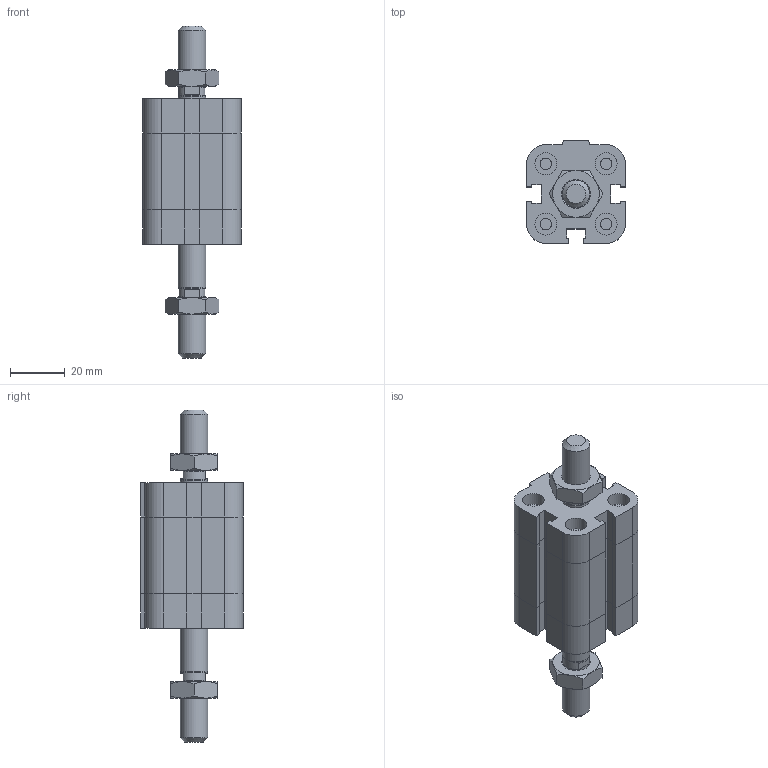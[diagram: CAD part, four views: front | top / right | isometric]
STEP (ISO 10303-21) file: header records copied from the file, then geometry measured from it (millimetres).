
FILE_DESCRIPTION((''),'2;1');
FILE_NAME('I:\Area Tecnica\Disegni\VARIE-3D\Componenti\EUROPE\15##_###_####_04_#\1581_20_0015_04_1.iam.stp','2009-04-20T14:49:46',(''),(''),'Autodesk Inventor 2009','Autodesk Inventor 2009','');
FILE_SCHEMA(('AUTOMOTIVE_DESIGN { 1 0 10303 214 1 1 1 1 }'));
Length unit declared in the file: millimetre
Products named in the file (4): 1581_20_0015_04_1; 1581_20_0015_03_1_C; 1561_20_0015_04_1_S; DBFM10
Assembly tree (4 placements, depth 2):
  1581_20_0015_04_1
    1581_20_0015_03_1_C
    1561_20_0015_04_1_S
    DBFM10  x2
Bounding box: 36 x 37.5 x 121 mm (x, y, z)
Volume: 65612.3 mm3; surface area: 21484.5 mm2
Topology: 4 solids, 4 shells, 222 faces, 483 edges, 289 vertices
Faces by surface type: plane 129, cone 35, bspline 33, cylinder 25
Full cylindrical faces by diameter (mm): 4.134 x4, 7.9 x1, 8 x4, 9.8 x2, 10 x2
Entity records: 5450 total; most frequent: CARTESIAN_POINT 1222, DIRECTION 802, ORIENTED_EDGE 772, EDGE_CURVE 386, AXIS2_PLACEMENT_3D 272, EDGE_LOOP 258, VECTOR 258, LINE 258
